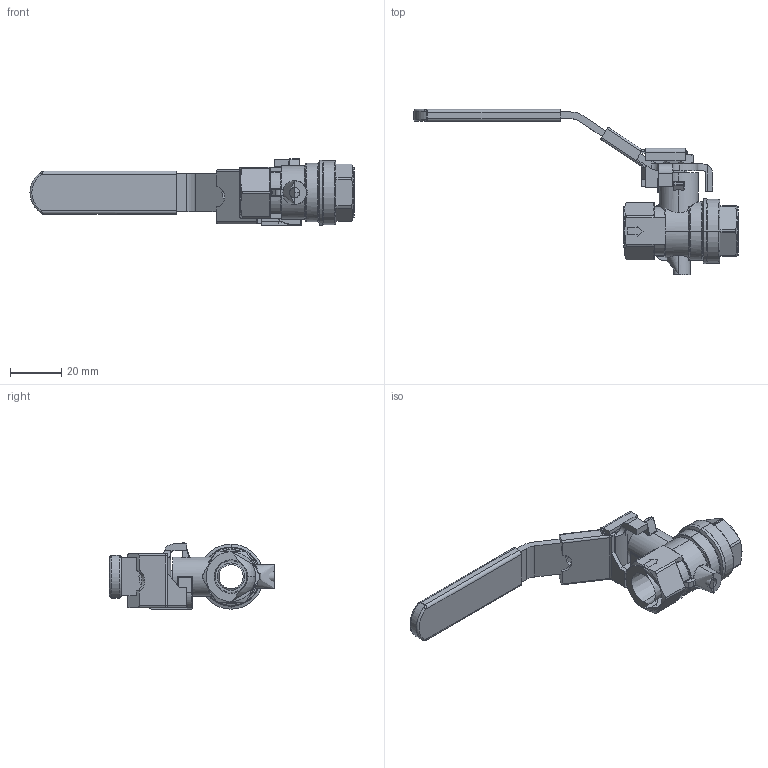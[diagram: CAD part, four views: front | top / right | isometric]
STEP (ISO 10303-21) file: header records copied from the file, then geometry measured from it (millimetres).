
FILE_DESCRIPTION (( 'STEP AP203' ), '1' );
FILE_NAME ('SEL-2.STEP', '2022-08-25T21:10:04', ( '' ), ( '' ), 'SwSTEP 2.0', 'SolidWorks 2021', '' );
FILE_SCHEMA (( 'CONFIG_CONTROL_DESIGN' ));
Length unit declared in the file: inch
Products named in the file (1): SEL-2
Bounding box: 126.9 x 64.64 x 25.93 mm (x, y, z)
Volume: 27480.1 mm3; surface area: 17439.7 mm2
Topology: 5 solids, 5 shells, 450 faces, 1168 edges, 725 vertices
Faces by surface type: plane 159, cylinder 149, bspline 53, cone 41, torus 38, sphere 10
Entity records: 16649 total; most frequent: CARTESIAN_POINT 6072, ORIENTED_EDGE 2318, DIRECTION 2086, EDGE_CURVE 1159, AXIS2_PLACEMENT_3D 786, VERTEX_POINT 720, LINE 514, VECTOR 514
